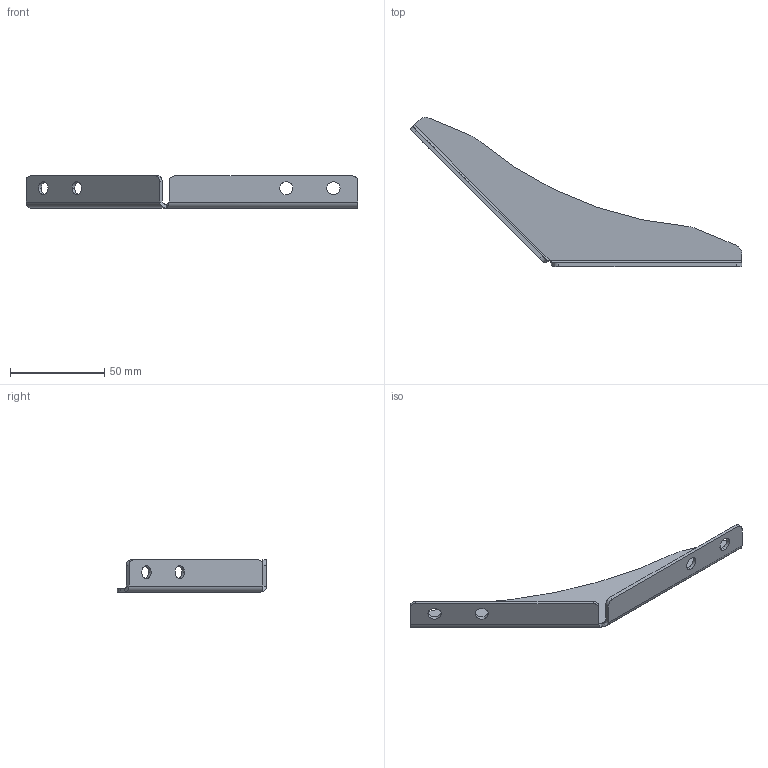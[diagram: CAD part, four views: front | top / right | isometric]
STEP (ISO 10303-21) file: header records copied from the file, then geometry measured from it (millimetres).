
FILE_DESCRIPTION (( 'STEP AP203' ), '1' );
FILE_NAME ('013.100.023.STEP', '2020-11-26T14:12:49', ( '' ), ( '' ), 'SwSTEP 2.0', 'SolidWorks 2018', '' );
FILE_SCHEMA (( 'CONFIG_CONTROL_DESIGN' ));
Length unit declared in the file: millimetre
Products named in the file (1): 013.100.023
Bounding box: 175.83 x 79 x 17 mm (x, y, z)
Volume: 14546.1 mm3; surface area: 15644.9 mm2
Topology: 1 solids, 1 shells, 41 faces, 101 edges, 62 vertices
Faces by surface type: cylinder 21, plane 18, bspline 2
Entity records: 1410 total; most frequent: CARTESIAN_POINT 331, DIRECTION 215, ORIENTED_EDGE 202, EDGE_CURVE 101, AXIS2_PLACEMENT_3D 78, VERTEX_POINT 62, LINE 59, VECTOR 59
